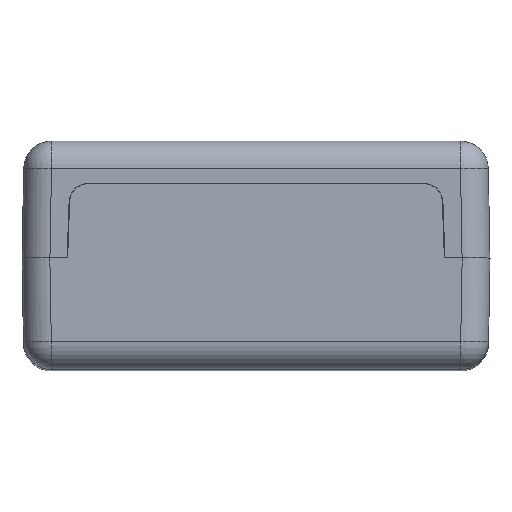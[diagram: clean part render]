
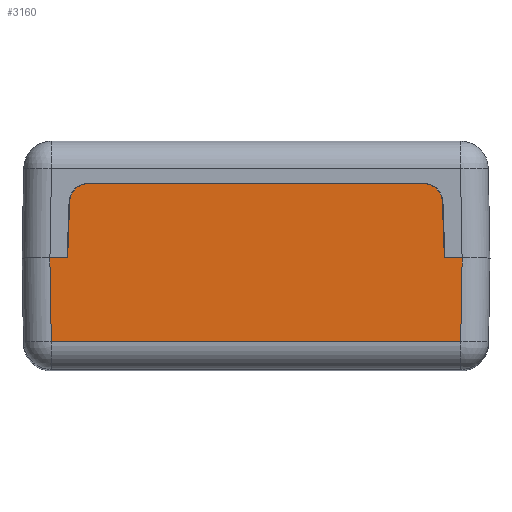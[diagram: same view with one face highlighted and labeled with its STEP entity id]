
A CAD part, top view. The second image highlights one B-rep face of the part: STEP entity #3160.
In plain terms, the highlighted planar face has unit normal (0, 0, 1).
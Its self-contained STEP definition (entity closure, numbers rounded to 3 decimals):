
#341 = ORIENTED_EDGE ( 'NONE', *, *, #6502, .T. ) ;
#442 = VECTOR ( 'NONE', #9246, 1000. ) ;
#608 = DIRECTION ( 'NONE',  ( 1., 0., 0. ) ) ;
#719 = VECTOR ( 'NONE', #608, 1000. ) ;
#764 = EDGE_CURVE ( 'NONE', #8727, #1891, #3655, .T. ) ;
#789 = DIRECTION ( 'NONE',  ( 0.017, 1., 0. ) ) ;
#1086 = EDGE_CURVE ( 'NONE', #4237, #5961, #6015, .T. ) ;
#1302 = VERTEX_POINT ( 'NONE', #6379 ) ;
#1346 = CARTESIAN_POINT ( 'NONE',  ( 25., -9., 50.2 ) ) ;
#1514 = AXIS2_PLACEMENT_3D ( 'NONE', #10540, #5672, #12479 ) ;
#1781 = CARTESIAN_POINT ( 'NONE',  ( 21.985, -12.82, 50.2 ) ) ;
#1810 = CARTESIAN_POINT ( 'NONE',  ( -18.078, 8., 50.2 ) ) ;
#1885 = ORIENTED_EDGE ( 'NONE', *, *, #12205, .F. ) ;
#1891 = VERTEX_POINT ( 'NONE', #5695 ) ;
#2580 = LINE ( 'NONE', #12237, #9743 ) ;
#2779 = CARTESIAN_POINT ( 'NONE',  ( 20.652, -10.406, 50.2 ) ) ;
#2981 = EDGE_CURVE ( 'NONE', #8727, #4237, #5958, .T. ) ;
#3160 = ADVANCED_FACE ( 'NONE', ( #8675 ), #4715, .T. ) ;
#3174 = EDGE_CURVE ( 'NONE', #10733, #10152, #10996, .T. ) ;
#3450 = VECTOR ( 'NONE', #7420, 1000. ) ;
#3537 = CIRCLE ( 'NONE', #9190, 2. ) ;
#3538 = DIRECTION ( 'NONE',  ( 1., 0., 0. ) ) ;
#3593 = AXIS2_PLACEMENT_3D ( 'NONE', #11438, #5611, #12402 ) ;
#3633 = CARTESIAN_POINT ( 'NONE',  ( -22.052, -9., 50.2 ) ) ;
#3655 = LINE ( 'NONE', #6708, #719 ) ;
#3681 = EDGE_LOOP ( 'NONE', ( #1885, #5644, #3735, #4385, #7973, #8625, #341, #8236, #8108, #6356 ) ) ;
#3735 = ORIENTED_EDGE ( 'NONE', *, *, #8235, .T. ) ;
#3784 = DIRECTION ( 'NONE',  ( 0.035, -0.999, 0. ) ) ;
#4128 = CARTESIAN_POINT ( 'NONE',  ( -20.009, 8., 50.2 ) ) ;
#4237 = VERTEX_POINT ( 'NONE', #3633 ) ;
#4320 = LINE ( 'NONE', #4128, #11748 ) ;
#4385 = ORIENTED_EDGE ( 'NONE', *, *, #764, .F. ) ;
#4637 = LINE ( 'NONE', #1781, #9479 ) ;
#4715 = PLANE ( 'NONE',  #1514 ) ;
#4730 = LINE ( 'NONE', #12619, #12154 ) ;
#4989 = CARTESIAN_POINT ( 'NONE',  ( 20.077, 6.07, 50.2 ) ) ;
#5309 = DIRECTION ( 'NONE',  ( 0., 0., 1. ) ) ;
#5611 = DIRECTION ( 'NONE',  ( 0., 0., 1. ) ) ;
#5644 = ORIENTED_EDGE ( 'NONE', *, *, #8863, .T. ) ;
#5672 = DIRECTION ( 'NONE',  ( 0., 0., 1. ) ) ;
#5695 = CARTESIAN_POINT ( 'NONE',  ( -20.289, 0., 50.2 ) ) ;
#5958 = LINE ( 'NONE', #8250, #442 ) ;
#5961 = VERTEX_POINT ( 'NONE', #12453 ) ;
#6015 = LINE ( 'NONE', #1346, #3450 ) ;
#6356 = ORIENTED_EDGE ( 'NONE', *, *, #8508, .T. ) ;
#6379 = CARTESIAN_POINT ( 'NONE',  ( 18.078, 8., 50.2 ) ) ;
#6502 = EDGE_CURVE ( 'NONE', #5961, #7100, #4637, .T. ) ;
#6708 = CARTESIAN_POINT ( 'NONE',  ( -25., 0., 50.2 ) ) ;
#6860 = CARTESIAN_POINT ( 'NONE',  ( -22.209, 0., 50.2 ) ) ;
#7100 = VERTEX_POINT ( 'NONE', #12475 ) ;
#7420 = DIRECTION ( 'NONE',  ( 1., 0., 0. ) ) ;
#7973 = ORIENTED_EDGE ( 'NONE', *, *, #2981, .T. ) ;
#8108 = ORIENTED_EDGE ( 'NONE', *, *, #3174, .F. ) ;
#8235 = EDGE_CURVE ( 'NONE', #11072, #1891, #4320, .T. ) ;
#8236 = ORIENTED_EDGE ( 'NONE', *, *, #12458, .F. ) ;
#8250 = CARTESIAN_POINT ( 'NONE',  ( -22., -11.948, 50.2 ) ) ;
#8382 = VECTOR ( 'NONE', #3784, 1000. ) ;
#8508 = EDGE_CURVE ( 'NONE', #10733, #1302, #10089, .T. ) ;
#8625 = ORIENTED_EDGE ( 'NONE', *, *, #1086, .T. ) ;
#8675 = FACE_OUTER_BOUND ( 'NONE', #3681, .T. ) ;
#8727 = VERTEX_POINT ( 'NONE', #6860 ) ;
#8863 = EDGE_CURVE ( 'NONE', #9186, #11072, #3537, .T. ) ;
#9186 = VERTEX_POINT ( 'NONE', #1810 ) ;
#9190 = AXIS2_PLACEMENT_3D ( 'NONE', #11130, #5309, #12076 ) ;
#9246 = DIRECTION ( 'NONE',  ( 0.017, -1., 0. ) ) ;
#9396 = CARTESIAN_POINT ( 'NONE',  ( -20.077, 6.07, 50.2 ) ) ;
#9479 = VECTOR ( 'NONE', #789, 1000. ) ;
#9743 = VECTOR ( 'NONE', #3538, 1000. ) ;
#10089 = CIRCLE ( 'NONE', #3593, 2. ) ;
#10152 = VERTEX_POINT ( 'NONE', #11120 ) ;
#10540 = CARTESIAN_POINT ( 'NONE',  ( -25., -12., 50.2 ) ) ;
#10677 = DIRECTION ( 'NONE',  ( 1., 0., 0. ) ) ;
#10733 = VERTEX_POINT ( 'NONE', #4989 ) ;
#10943 = DIRECTION ( 'NONE',  ( -0.035, -0.999, 0. ) ) ;
#10996 = LINE ( 'NONE', #2779, #8382 ) ;
#11072 = VERTEX_POINT ( 'NONE', #9396 ) ;
#11120 = CARTESIAN_POINT ( 'NONE',  ( 20.289, 0., 50.2 ) ) ;
#11130 = CARTESIAN_POINT ( 'NONE',  ( -18.078, 6., 50.2 ) ) ;
#11438 = CARTESIAN_POINT ( 'NONE',  ( 18.078, 6., 50.2 ) ) ;
#11748 = VECTOR ( 'NONE', #10943, 1000. ) ;
#12076 = DIRECTION ( 'NONE',  ( 1., 0., 0. ) ) ;
#12154 = VECTOR ( 'NONE', #10677, 1000. ) ;
#12205 = EDGE_CURVE ( 'NONE', #9186, #1302, #2580, .T. ) ;
#12237 = CARTESIAN_POINT ( 'NONE',  ( -20.009, 8., 50.2 ) ) ;
#12402 = DIRECTION ( 'NONE',  ( 1., 0., 0. ) ) ;
#12453 = CARTESIAN_POINT ( 'NONE',  ( 22.052, -9., 50.2 ) ) ;
#12458 = EDGE_CURVE ( 'NONE', #10152, #7100, #4730, .T. ) ;
#12475 = CARTESIAN_POINT ( 'NONE',  ( 22.209, 0., 50.2 ) ) ;
#12479 = DIRECTION ( 'NONE',  ( 1., 0., 0. ) ) ;
#12619 = CARTESIAN_POINT ( 'NONE',  ( -25., 0., 50.2 ) ) ;
